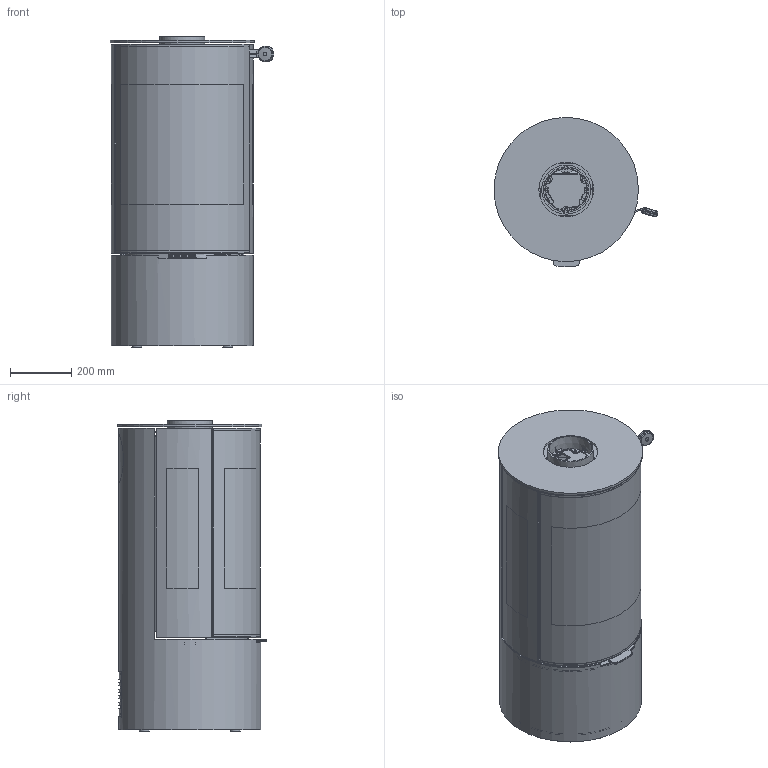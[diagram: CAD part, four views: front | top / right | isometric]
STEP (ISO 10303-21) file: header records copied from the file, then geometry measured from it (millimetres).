
FILE_DESCRIPTION(/* description */ (''),/* implementation_level */ '2;1');
FILE_NAME(/* name */ '2728501 Viva 100 L G.stp',/* time_stamp */ '2023-11-06T14:35:51+01:00',/* author */ ('ksj'),/* organization */ (''),/* preprocessor_version */ 'ST-DEVELOPER v19.2',/* originating_system */ 'Autodesk Inventor 2023',/* authorisation */ '');
FILE_SCHEMA (('AUTOMOTIVE_DESIGN { 1 0 10303 214 3 1 1 }'));
Products named in the file (1): 2728501 Viva 100 L G
Bounding box: 533.71 x 484.74 x 1011 mm (x, y, z)
Volume: 14376677.1 mm3; surface area: 7075686.6 mm2
Topology: 58 solids, 58 shells, 2858 faces, 7780 edges, 5040 vertices
Faces by surface type: plane 1682, cylinder 1006, bspline 89, torus 57, cone 18, sphere 6
Full cylindrical faces by diameter (mm): 8 x4, 12 x1, 32 x4, 33.8 x2, 153.5 x1, 160 x1, 178 x1, 456 x1, 462 x1, 470 x1
Entity records: 100530 total; most frequent: CARTESIAN_POINT 23966, ORIENTED_EDGE 15544, DIRECTION 15127, EDGE_CURVE 7772, LINE 5133, VECTOR 5133, VERTEX_POINT 5036, AXIS2_PLACEMENT_3D 4997
